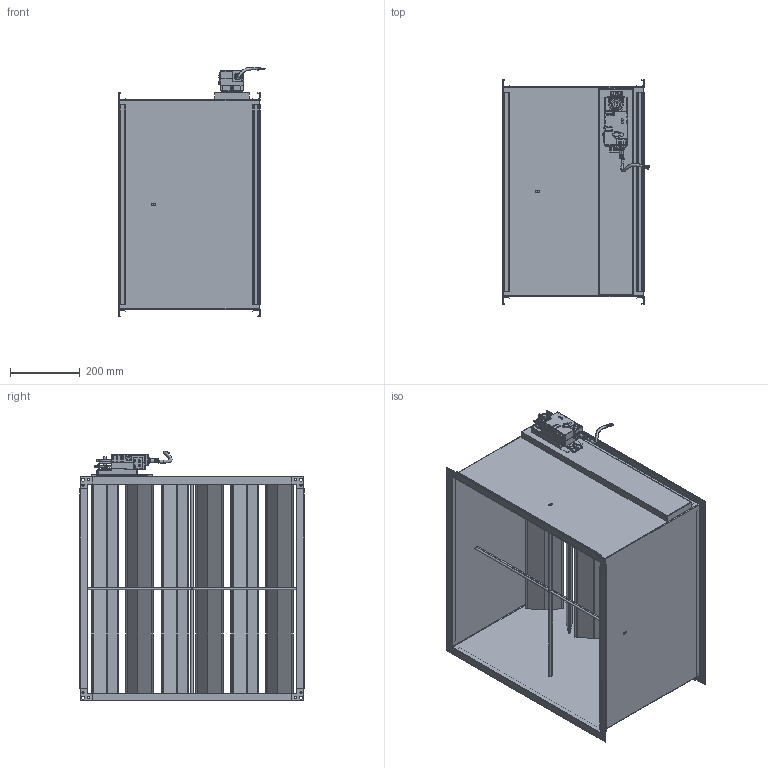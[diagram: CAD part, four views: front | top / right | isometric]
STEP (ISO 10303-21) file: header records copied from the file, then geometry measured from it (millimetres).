
FILE_DESCRIPTION (( 'STEP AP214' ), '1' );
FILE_NAME ('VAV-S600600.STEP', '2025-05-08T11:40:48', ( '' ), ( '' ), 'SwSTEP 2.0', 'SolidWorks 2025', '' );
FILE_SCHEMA (( 'AUTOMOTIVE_DESIGN' ));
Length unit declared in the file: millimetre
Products named in the file (1): VAV-S600600
Bounding box: 420.13 x 641 x 713.69 mm (x, y, z)
Surface area: 3758445.9 mm2 (no closed solid volume)
Topology: 0 solids, 48 shells, 2114 faces, 5529 edges, 3522 vertices
Faces by surface type: plane 1547, cylinder 514, bspline 24, sphere 18, cone 10, torus 1
Full cylindrical faces by diameter (mm): 1 x4, 6 x17, 8 x1, 9 x8, 11 x1, 20 x1, 21 x2
Entity records: 92630 total; most frequent: CARTESIAN_POINT 41716, ORIENTED_EDGE 10849, DIRECTION 7032, EDGE_CURVE 5448, VERTEX_POINT 3497, B_SPLINE_CURVE_WITH_KNOTS 3170, AXIS2_PLACEMENT_3D 2675, EDGE_LOOP 2322
